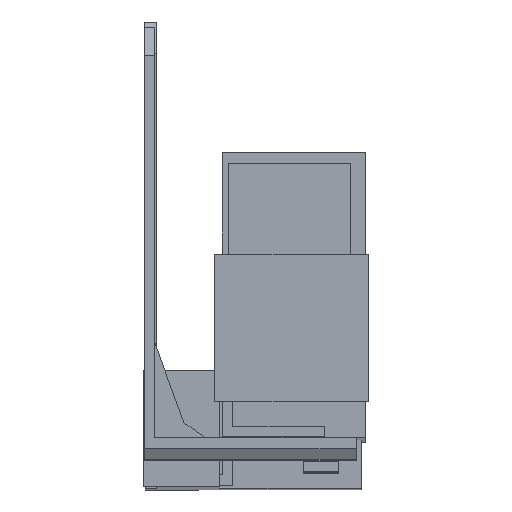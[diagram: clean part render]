
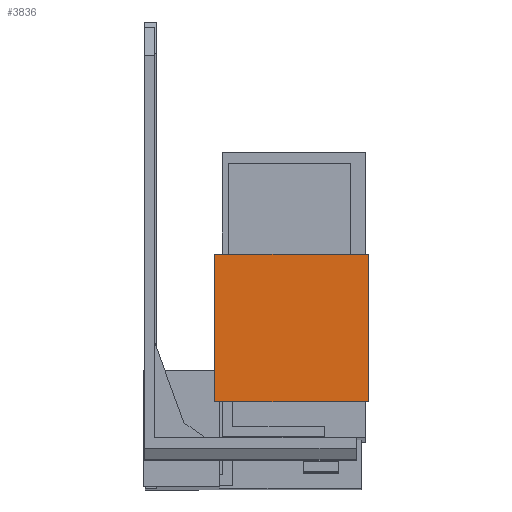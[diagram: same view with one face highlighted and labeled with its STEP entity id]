
A CAD part, front view. The second image highlights one B-rep face of the part: STEP entity #3836.
In plain terms, the highlighted planar face has unit normal (0, -1, 0.003).
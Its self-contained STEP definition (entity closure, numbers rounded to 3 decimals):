
#98 = VECTOR ( 'NONE', #4414, 1000. ) ;
#99 = LINE ( 'NONE', #4415, #98 ) ;
#153 = LINE ( 'NONE', #4713, #158 ) ;
#158 = VECTOR ( 'NONE', #4391, 1000. ) ;
#195 = ORIENTED_EDGE ( 'NONE', *, *, #826, .F. ) ;
#208 = ORIENTED_EDGE ( 'NONE', *, *, #869, .T. ) ;
#212 = ORIENTED_EDGE ( 'NONE', *, *, #962, .F. ) ;
#214 = ORIENTED_EDGE ( 'NONE', *, *, #1423, .F. ) ;
#225 = EDGE_LOOP ( 'NONE', ( #214, #212, #208, #195 ) ) ;
#826 = EDGE_CURVE ( 'NONE', #4196, #4275, #153, .T. ) ;
#869 = EDGE_CURVE ( 'NONE', #4221, #4275, #99, .T. ) ;
#893 = AXIS2_PLACEMENT_3D ( 'NONE', #1770, #1776, #1777 ) ;
#962 = EDGE_CURVE ( 'NONE', #4221, #4277, #1647, .T. ) ;
#1423 = EDGE_CURVE ( 'NONE', #4277, #4196, #4867, .T. ) ;
#1646 = VECTOR ( 'NONE', #4624, 1000. ) ;
#1647 = LINE ( 'NONE', #4626, #1646 ) ;
#1767 = PLANE ( 'NONE',  #893 ) ;
#1770 = CARTESIAN_POINT ( 'NONE',  ( 9.3, -29.009, -40.322 ) ) ;
#1776 = DIRECTION ( 'NONE',  ( 0., -1., 0.003 ) ) ;
#1777 = DIRECTION ( 'NONE',  ( -1., 0., 0. ) ) ;
#1979 = CARTESIAN_POINT ( 'NONE',  ( 31.95, -28.952, -19.322 ) ) ;
#2004 = CARTESIAN_POINT ( 'NONE',  ( 10.05, -29.009, -40.322 ) ) ;
#2058 = CARTESIAN_POINT ( 'NONE',  ( 31.95, -29.009, -40.322 ) ) ;
#2060 = CARTESIAN_POINT ( 'NONE',  ( 10.05, -28.952, -19.322 ) ) ;
#2505 = CARTESIAN_POINT ( 'NONE',  ( 9.3, -28.952, -19.322 ) ) ;
#2506 = DIRECTION ( 'NONE',  ( 1., 0., 0. ) ) ;
#3836 = ADVANCED_FACE ( 'NONE', ( #3892 ), #1767, .T. ) ;
#3892 = FACE_OUTER_BOUND ( 'NONE', #225, .T. ) ;
#4196 = VERTEX_POINT ( 'NONE', #1979 ) ;
#4221 = VERTEX_POINT ( 'NONE', #2004 ) ;
#4275 = VERTEX_POINT ( 'NONE', #2058 ) ;
#4277 = VERTEX_POINT ( 'NONE', #2060 ) ;
#4391 = DIRECTION ( 'NONE',  ( 0., -0.003, -1. ) ) ;
#4414 = DIRECTION ( 'NONE',  ( 1., 0., 0. ) ) ;
#4415 = CARTESIAN_POINT ( 'NONE',  ( 9.3, -29.009, -40.322 ) ) ;
#4624 = DIRECTION ( 'NONE',  ( 0., 0.003, 1. ) ) ;
#4626 = CARTESIAN_POINT ( 'NONE',  ( 10.05, -29.009, -40.322 ) ) ;
#4713 = CARTESIAN_POINT ( 'NONE',  ( 31.95, -28.952, -19.322 ) ) ;
#4866 = VECTOR ( 'NONE', #2506, 1000. ) ;
#4867 = LINE ( 'NONE', #2505, #4866 ) ;
